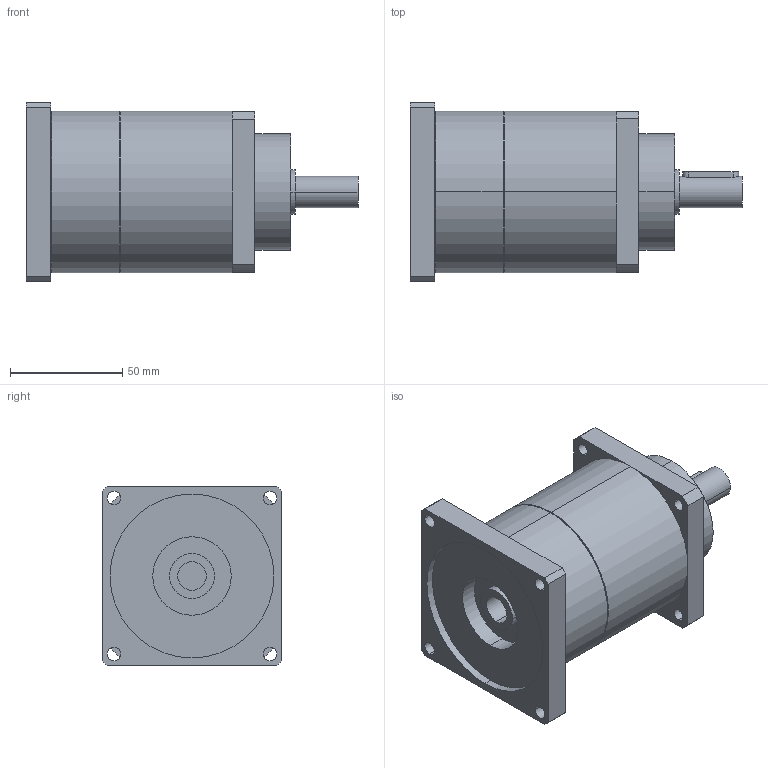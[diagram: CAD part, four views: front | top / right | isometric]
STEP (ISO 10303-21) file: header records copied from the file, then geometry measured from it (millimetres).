
FILE_DESCRIPTION(('CoCreate Modeling STEP Export'),'2;1');
FILE_NAME('GPT75_ig-9-12-16-20-25-28-35-40-50-70-100_14_B5T_12.7_P06.stp','2014-08-27T13:35:07',(''),(''),'CoCreate Modeling STEP processor for AP214 (Solid Model)','CoCreate Modeling 16.00C 25-Feb-2009 (C) Parametric Technology GmbH','');
FILE_SCHEMA(('AUTOMOTIVE_DESIGN { 1 0 10303 214 1 1 1 1 }'));
Length unit declared in the file: millimetre
Products named in the file (2): GPT75_ig-9-12-16-20-25-28-35-40-50-70-100_14_B5T_12.7_P06
Assembly tree (1 placements, depth 2):
  GPT75_ig-9-12-16-20-25-28-35-40-50-70-100_14_B5T_12.7_P06
    GPT75_ig-9-12-16-20-25-28-35-40-50-70-100_14_B5T_12.7_P06
Bounding box: 148 x 80 x 80 mm (x, y, z)
Volume: 463547.5 mm3; surface area: 48374.6 mm2
Topology: 1 solids, 1 shells, 77 faces, 194 edges, 129 vertices
Faces by surface type: cylinder 46, plane 27, cone 4
Entity records: 2484 total; most frequent: CARTESIAN_POINT 719, ORIENTED_EDGE 388, DIRECTION 320, EDGE_CURVE 194, VERTEX_POINT 129, AXIS2_PLACEMENT_3D 118, EDGE_LOOP 103, VECTOR 84
